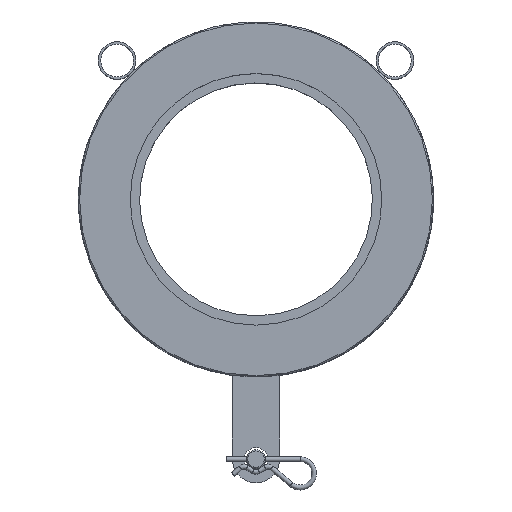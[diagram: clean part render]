
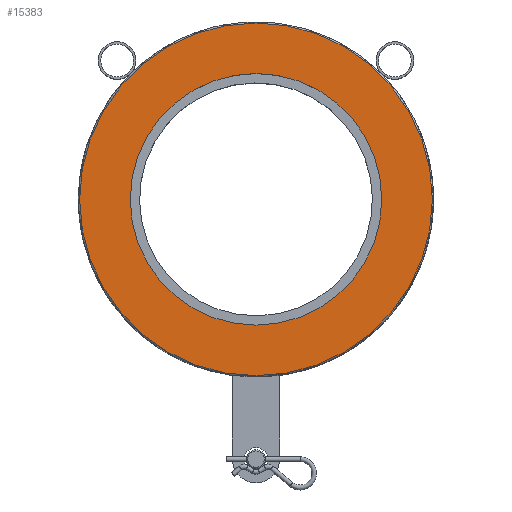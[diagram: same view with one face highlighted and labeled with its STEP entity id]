
A CAD part, top view. The second image highlights one B-rep face of the part: STEP entity #15383.
In plain terms, the highlighted planar face has unit normal (0, 0, 1).
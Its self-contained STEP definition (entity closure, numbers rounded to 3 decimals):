
#513=FACE_BOUND('',#3418,.T.);
#1673=PLANE('',#16191);
#2496=FACE_OUTER_BOUND('',#3417,.T.);
#3417=EDGE_LOOP('',(#14132));
#3418=EDGE_LOOP('',(#14133));
#5926=CIRCLE('',#16187,107.);
#5927=CIRCLE('',#16189,150.);
#7425=VERTEX_POINT('',#36743);
#7426=VERTEX_POINT('',#36747);
#9675=EDGE_CURVE('',#7425,#7425,#5926,.T.);
#9677=EDGE_CURVE('',#7426,#7426,#5927,.T.);
#14132=ORIENTED_EDGE('',*,*,#9677,.F.);
#14133=ORIENTED_EDGE('',*,*,#9675,.T.);
#15383=ADVANCED_FACE('',(#2496,#513),#1673,.T.);
#16187=AXIS2_PLACEMENT_3D('',#36744,#18765,#18766);
#16189=AXIS2_PLACEMENT_3D('',#36748,#18770,#18771);
#16191=AXIS2_PLACEMENT_3D('',#36751,#18775,#18776);
#18765=DIRECTION('center_axis',(0.,0.,
-1.));
#18766=DIRECTION('ref_axis',(-1.,0.,0.));
#18770=DIRECTION('center_axis',(0.,0.,
-1.));
#18771=DIRECTION('ref_axis',(-1.,0.,0.));
#18775=DIRECTION('center_axis',(0.,0.,
1.));
#18776=DIRECTION('ref_axis',(-1.,0.,0.));
#36743=CARTESIAN_POINT('',(107.,0.,97.));
#36744=CARTESIAN_POINT('Origin',(0.,0.,
97.));
#36747=CARTESIAN_POINT('',(150.,0.,97.));
#36748=CARTESIAN_POINT('Origin',(0.,0.,
97.));
#36751=CARTESIAN_POINT('Origin',(0.,0.,
97.));
